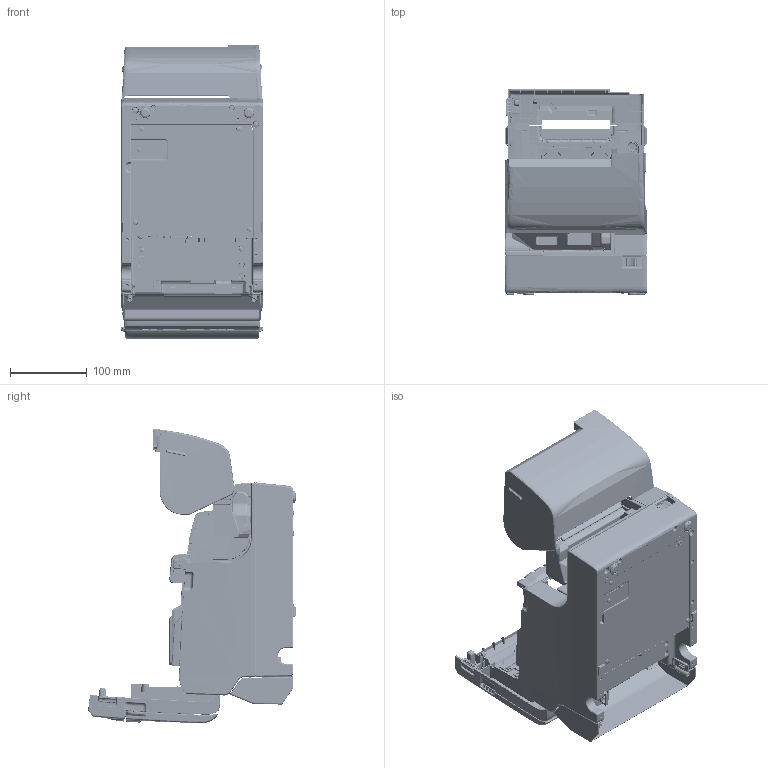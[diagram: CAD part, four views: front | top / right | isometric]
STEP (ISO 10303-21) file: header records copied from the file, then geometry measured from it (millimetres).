
FILE_DESCRIPTION((''),'2;1');
FILE_NAME('APP_SW0002','2025-07-14T16:27:09',('5012938'),(''),'CREO PARAMETRIC BY PTC INC, 2022281','CREO PARAMETRIC BY PTC INC, 2022281','');
FILE_SCHEMA(('AUTOMOTIVE_DESIGN { 1 0 10303 214 1 1 1 1 }'));
Length unit declared in the file: millimetre
Products named in the file (1): APP_SW0002
Bounding box: 186 x 270 x 383.89 mm (x, y, z)
Surface area: 975142.6 mm2 (no closed solid volume)
Topology: 0 solids, 201 shells, 10093 faces, 32130 edges, 21800 vertices
Faces by surface type: plane 5148, cylinder 2854, bspline 1151, cone 378, torus 347, sphere 145, extrusion 70
Entity records: 494687 total; most frequent: CARTESIAN_POINT 223165, ORIENTED_EDGE 57324, DIRECTION 51766, EDGE_CURVE 32116, VERTEX_POINT 21801, VECTOR 19336, LINE 19266, AXIS2_PLACEMENT_3D 16215
